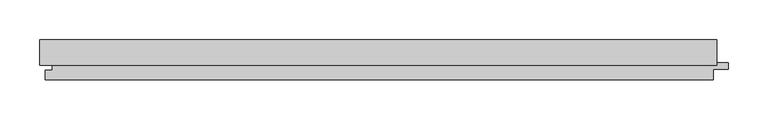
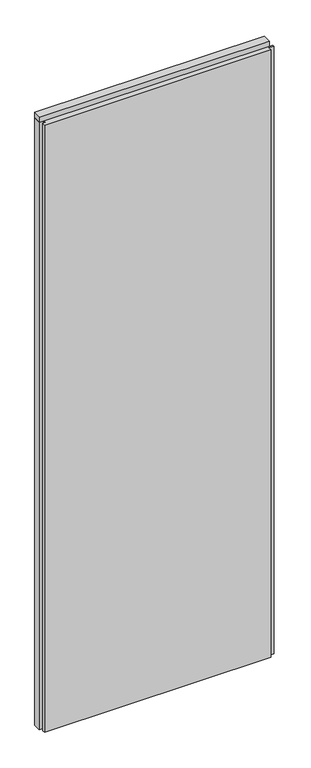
"""IFC4 building model written with IfcOpenShell, lengths in millimetres: plate geometry, Trimo_Qbiss Screen_Normal Panel-VERTICAL : HR - FB-F."""

from ifc_helpers import new_model, si_unit, frame, origin, place, context, project, spatial, polyline, outline, extrude, source, transform, mapped, element, save


def plate_6d0773e9(model_context):
    return source(origin(), model_context, "Body", "SweptSolid", [
        extrude(outline(polyline([(-425.0, 93.9), (-425.0, 126.0), (425.0, 126.0), (425.0, 93.9), (-425.0, 93.9)])), frame((0.0, 0.0, 2390.5), z_axis=(0.0, 0.0, 1.0), x_axis=(1.0, 0.0, 0.0)), (0.0, 0.0, 1.0), 19.0),
        extrude(outline(polyline([(421.0, 97.0), (439.5, 97.0), (439.5, 89.0), (421.0, 89.0), (421.0, 76.0), (-418.0, 76.0), (-418.0, 88.0), (-409.5, 88.0), (-409.5, 98.0), (-425.0, 98.0), (-425.0, 126.0), (421.0, 126.0), (421.0, 97.0)])), frame((0.0, 0.0, 12.5), z_axis=(0.0, 0.0, 1.0), x_axis=(1.0, 0.0, 0.0)), (0.0, 0.0, 1.0), 2375.0),
    ])


if __name__ == "__main__":
    model = new_model("IFC4")
    model_context = context("Model", 3, world=origin())
    ifc_project = project(units=[si_unit("LENGTHUNIT", "METRE", prefix="MILLI")], contexts=[model_context])
    site = spatial("IfcSite", under=ifc_project)
    building = spatial("IfcBuilding", under=site)
    placement = place(None, origin())
    plate_shape = plate_6d0773e9(model_context)
    element("IfcPlate", 1, ObjectType="Trimo_Qbiss Screen_Normal Panel-VERTICAL : HR - FB-F", at=placement, inside=building, context=model_context, shape_type="MappedRepresentation", body=[
        mapped(plate_shape, transform((0.0, 0.0, 0.0), x_axis=(1.0, 0.0, 0.0), y_axis=(0.0, 1.0, 0.0), z_axis=(0.0, 0.0, 1.0))),
    ])
    save(model, "model.ifc")
